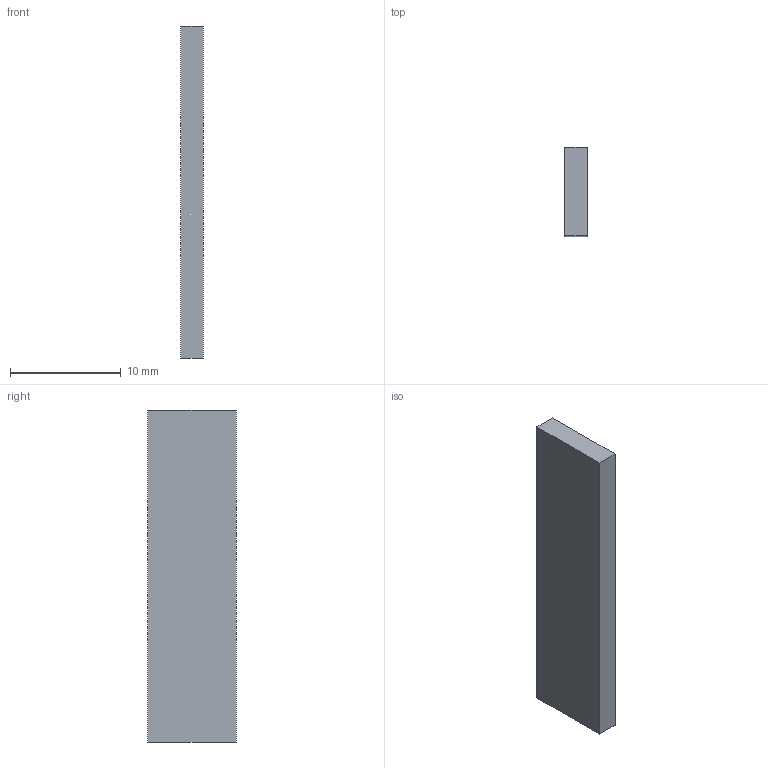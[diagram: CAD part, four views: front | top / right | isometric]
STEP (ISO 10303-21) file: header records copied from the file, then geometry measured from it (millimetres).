
FILE_DESCRIPTION(('FreeCAD Model'),'2;1');
FILE_NAME('Open CASCADE Shape Model','2026-11-06T11:24:16',('FreeCAD'),( 'FreeCAD'),'Open CASCADE STEP processor 7.8','FreeCAD','Unknown');
FILE_SCHEMA(('AUTOMOTIVE_DESIGN { 1 0 10303 214 1 1 1 1 }'));
Length unit declared in the file: millimetre
Products named in the file (1): Open CASCADE STEP translator 7.8 21
Bounding box: 2 x 8 x 30 mm (x, y, z)
Volume: 480 mm3; surface area: 632 mm2
Topology: 1 solids, 1 shells, 6 faces, 12 edges, 8 vertices
Faces by surface type: plane 6
Entity records: 166 total; most frequent: CARTESIAN_POINT 27, DIRECTION 26, ORIENTED_EDGE 24, EDGE_CURVE 12, LINE 12, VECTOR 12, VERTEX_POINT 8, AXIS2_PLACEMENT_3D 7
